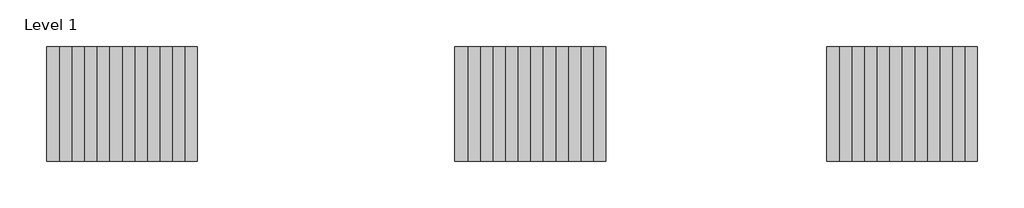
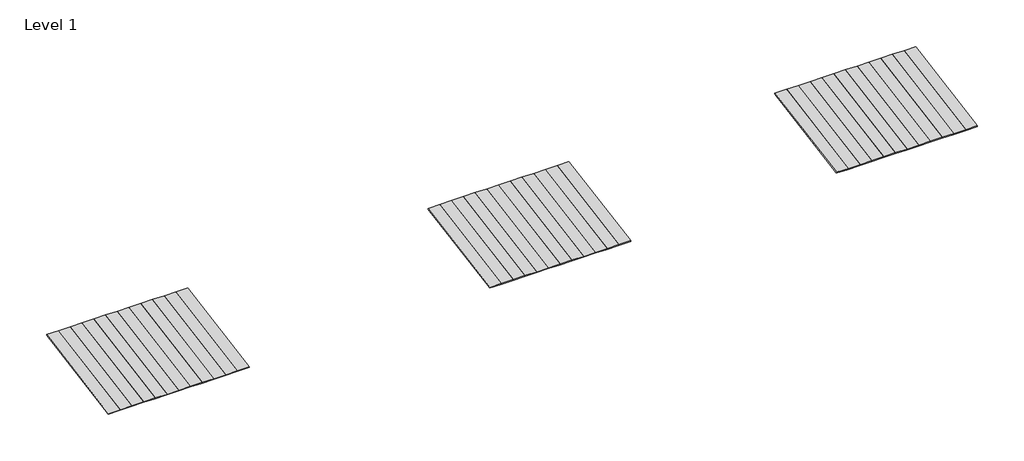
# One storey: 36 plates.
"""IFC4 building model written with IfcOpenShell, lengths in millimetres."""

from ifc_helpers import new_model, si_unit, origin, place, context, project, spatial, transform, mapped, element, save
from components import system_panel_77eb090d, system_panel_bf3a755d, system_panel_ab85e6cc

model = new_model("IFC4")

# Units and contexts
model_context = context("Model", 3, world=origin())
ifc_project = project(units=[si_unit("LENGTHUNIT", "METRE", prefix="MILLI")], contexts=[model_context])

# Site, building, storey
site = spatial("IfcSite", under=ifc_project)
building = spatial("IfcBuilding", under=site)
storey = spatial("IfcBuildingStorey", under=building, Name="Level 1", Elevation=4000.0)

# Plates
placement = place(None, origin())
system_panel_shape = system_panel_77eb090d(model_context)
element("IfcPlate", 1, ObjectType="System Panel : MetecnoSpan 60mm Roof - Plain Surfmist - PIR", at=placement, inside=storey, context=model_context, shape_type="MappedRepresentation", body=[
    mapped(system_panel_shape, transform((-46151.9897892, -47522.0759618, 0.0), x_axis=(1.0, 0.0, 0.0), y_axis=(0.0, 0.17364817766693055, -0.9848077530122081), z_axis=(0.0, 0.9848077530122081, 0.17364817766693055))),
])
element("IfcPlate", 2, ObjectType="System Panel : MetecnoSpan 60mm Roof - Plain Surfmist - PIR", at=placement, inside=storey, context=model_context, shape_type="MappedRepresentation", body=[
    mapped(system_panel_shape, transform((-45151.9897892, -47522.0759618, 0.0), x_axis=(1.0, 0.0, 0.0), y_axis=(0.0, 0.17364817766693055, -0.9848077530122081), z_axis=(0.0, 0.9848077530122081, 0.17364817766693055))),
])
element("IfcPlate", 3, ObjectType="System Panel : MetecnoSpan 60mm Roof - Plain Surfmist - PIR", at=placement, inside=storey, context=model_context, shape_type="MappedRepresentation", body=[
    mapped(system_panel_shape, transform((-44151.9897892, -47522.0759618, 0.0), x_axis=(1.0, 0.0, 0.0), y_axis=(0.0, 0.17364817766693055, -0.9848077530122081), z_axis=(0.0, 0.9848077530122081, 0.17364817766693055))),
])
element("IfcPlate", 4, ObjectType="System Panel : MetecnoSpan 60mm Roof - Plain Surfmist - PIR", at=placement, inside=storey, context=model_context, shape_type="MappedRepresentation", body=[
    mapped(system_panel_shape, transform((-43151.9897892, -47522.0759618, 0.0), x_axis=(1.0, 0.0, 0.0), y_axis=(0.0, 0.17364817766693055, -0.9848077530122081), z_axis=(0.0, 0.9848077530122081, 0.17364817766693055))),
])
element("IfcPlate", 5, ObjectType="System Panel : MetecnoSpan 60mm Roof - Plain Surfmist - PIR", at=placement, inside=storey, context=model_context, shape_type="MappedRepresentation", body=[
    mapped(system_panel_shape, transform((-42151.9897892, -47522.0759618, 0.0), x_axis=(1.0, 0.0, 0.0), y_axis=(0.0, 0.17364817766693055, -0.9848077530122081), z_axis=(0.0, 0.9848077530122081, 0.17364817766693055))),
])
element("IfcPlate", 6, ObjectType="System Panel : MetecnoSpan 60mm Roof - Plain Surfmist - PIR", at=placement, inside=storey, context=model_context, shape_type="MappedRepresentation", body=[
    mapped(system_panel_shape, transform((-41151.9897892, -47522.0759618, 0.0), x_axis=(1.0, 0.0, 0.0), y_axis=(0.0, 0.17364817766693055, -0.9848077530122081), z_axis=(0.0, 0.9848077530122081, 0.17364817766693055))),
])
element("IfcPlate", 7, ObjectType="System Panel : MetecnoSpan 60mm Roof - Plain Surfmist - PIR", at=placement, inside=storey, context=model_context, shape_type="MappedRepresentation", body=[
    mapped(system_panel_shape, transform((-40151.9897892, -47522.0759618, 0.0), x_axis=(1.0, 0.0, 0.0), y_axis=(0.0, 0.17364817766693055, -0.9848077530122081), z_axis=(0.0, 0.9848077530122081, 0.17364817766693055))),
])
element("IfcPlate", 8, ObjectType="System Panel : MetecnoSpan 60mm Roof - Plain Surfmist - PIR", at=placement, inside=storey, context=model_context, shape_type="MappedRepresentation", body=[
    mapped(system_panel_shape, transform((-39151.9897892, -47522.0759618, 0.0), x_axis=(1.0, 0.0, 0.0), y_axis=(0.0, 0.17364817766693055, -0.9848077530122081), z_axis=(0.0, 0.9848077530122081, 0.17364817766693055))),
])
element("IfcPlate", 9, ObjectType="System Panel : MetecnoSpan 60mm Roof - Plain Surfmist - PIR", at=placement, inside=storey, context=model_context, shape_type="MappedRepresentation", body=[
    mapped(system_panel_shape, transform((-38151.9897892, -47522.0759618, 0.0), x_axis=(1.0, 0.0, 0.0), y_axis=(0.0, 0.17364817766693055, -0.9848077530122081), z_axis=(0.0, 0.9848077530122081, 0.17364817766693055))),
])
element("IfcPlate", 10, ObjectType="System Panel : MetecnoSpan 60mm Roof - Plain Surfmist - PIR", at=placement, inside=storey, context=model_context, shape_type="MappedRepresentation", body=[
    mapped(system_panel_shape, transform((-37151.9897892, -47522.0759618, 0.0), x_axis=(1.0, 0.0, 0.0), y_axis=(0.0, 0.17364817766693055, -0.9848077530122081), z_axis=(0.0, 0.9848077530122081, 0.17364817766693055))),
])
element("IfcPlate", 11, ObjectType="System Panel : MetecnoSpan 60mm Roof - Plain Surfmist - PIR", at=placement, inside=storey, context=model_context, shape_type="MappedRepresentation", body=[
    mapped(system_panel_shape, transform((-36151.9897892, -47522.0759618, 0.0), x_axis=(1.0, 0.0, 0.0), y_axis=(0.0, 0.17364817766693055, -0.9848077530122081), z_axis=(0.0, 0.9848077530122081, 0.17364817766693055))),
])
element("IfcPlate", 12, ObjectType="System Panel : MetecnoSpan 60mm Roof - Plain Surfmist - PIR", at=placement, inside=storey, context=model_context, shape_type="MappedRepresentation", body=[
    mapped(system_panel_shape, transform((-35151.9897892, -47522.0759618, 0.0), x_axis=(1.0, 0.0, 0.0), y_axis=(0.0, 0.17364817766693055, -0.9848077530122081), z_axis=(0.0, 0.9848077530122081, 0.17364817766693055))),
])
system_panel_2_shape = system_panel_bf3a755d(model_context)
element("IfcPlate", 13, ObjectType="System Panel : MetecnoSpan 80mm Roof - Plain Surfmist - PIR", at=placement, inside=storey, context=model_context, shape_type="MappedRepresentation", body=[
    mapped(system_panel_2_shape, transform((-13677.3595261, -47532.4948525, 0.0), x_axis=(1.0, 0.0, 0.0), y_axis=(0.0, 0.17364817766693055, -0.9848077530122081), z_axis=(0.0, 0.9848077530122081, 0.17364817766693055))),
])
element("IfcPlate", 14, ObjectType="System Panel : MetecnoSpan 80mm Roof - Plain Surfmist - PIR", at=placement, inside=storey, context=model_context, shape_type="MappedRepresentation", body=[
    mapped(system_panel_2_shape, transform((-12677.3595261, -47532.4948525, 0.0), x_axis=(1.0, 0.0, 0.0), y_axis=(0.0, 0.17364817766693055, -0.9848077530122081), z_axis=(0.0, 0.9848077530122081, 0.17364817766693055))),
])
element("IfcPlate", 15, ObjectType="System Panel : MetecnoSpan 80mm Roof - Plain Surfmist - PIR", at=placement, inside=storey, context=model_context, shape_type="MappedRepresentation", body=[
    mapped(system_panel_2_shape, transform((-11677.3595261, -47532.4948525, 0.0), x_axis=(1.0, 0.0, 0.0), y_axis=(0.0, 0.17364817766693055, -0.9848077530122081), z_axis=(0.0, 0.9848077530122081, 0.17364817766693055))),
])
element("IfcPlate", 16, ObjectType="System Panel : MetecnoSpan 80mm Roof - Plain Surfmist - PIR", at=placement, inside=storey, context=model_context, shape_type="MappedRepresentation", body=[
    mapped(system_panel_2_shape, transform((-10677.3595261, -47532.4948525, 0.0), x_axis=(1.0, 0.0, 0.0), y_axis=(0.0, 0.17364817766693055, -0.9848077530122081), z_axis=(0.0, 0.9848077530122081, 0.17364817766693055))),
])
element("IfcPlate", 17, ObjectType="System Panel : MetecnoSpan 80mm Roof - Plain Surfmist - PIR", at=placement, inside=storey, context=model_context, shape_type="MappedRepresentation", body=[
    mapped(system_panel_2_shape, transform((-9677.3595261, -47532.4948525, 0.0), x_axis=(1.0, 0.0, 0.0), y_axis=(0.0, 0.17364817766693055, -0.9848077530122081), z_axis=(0.0, 0.9848077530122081, 0.17364817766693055))),
])
element("IfcPlate", 18, ObjectType="System Panel : MetecnoSpan 80mm Roof - Plain Surfmist - PIR", at=placement, inside=storey, context=model_context, shape_type="MappedRepresentation", body=[
    mapped(system_panel_2_shape, transform((-8677.3595261, -47532.4948525, 0.0), x_axis=(1.0, 0.0, 0.0), y_axis=(0.0, 0.17364817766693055, -0.9848077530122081), z_axis=(0.0, 0.9848077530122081, 0.17364817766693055))),
])
element("IfcPlate", 19, ObjectType="System Panel : MetecnoSpan 80mm Roof - Plain Surfmist - PIR", at=placement, inside=storey, context=model_context, shape_type="MappedRepresentation", body=[
    mapped(system_panel_2_shape, transform((-7677.3595261, -47532.4948525, 0.0), x_axis=(1.0, 0.0, 0.0), y_axis=(0.0, 0.17364817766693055, -0.9848077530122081), z_axis=(0.0, 0.9848077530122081, 0.17364817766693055))),
])
element("IfcPlate", 20, ObjectType="System Panel : MetecnoSpan 80mm Roof - Plain Surfmist - PIR", at=placement, inside=storey, context=model_context, shape_type="MappedRepresentation", body=[
    mapped(system_panel_2_shape, transform((-6677.3595261, -47532.4948525, 0.0), x_axis=(1.0, 0.0, 0.0), y_axis=(0.0, 0.17364817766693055, -0.9848077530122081), z_axis=(0.0, 0.9848077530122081, 0.17364817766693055))),
])
element("IfcPlate", 21, ObjectType="System Panel : MetecnoSpan 80mm Roof - Plain Surfmist - PIR", at=placement, inside=storey, context=model_context, shape_type="MappedRepresentation", body=[
    mapped(system_panel_2_shape, transform((-5677.3595261, -47532.4948525, 0.0), x_axis=(1.0, 0.0, 0.0), y_axis=(0.0, 0.17364817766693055, -0.9848077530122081), z_axis=(0.0, 0.9848077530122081, 0.17364817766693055))),
])
element("IfcPlate", 22, ObjectType="System Panel : MetecnoSpan 80mm Roof - Plain Surfmist - PIR", at=placement, inside=storey, context=model_context, shape_type="MappedRepresentation", body=[
    mapped(system_panel_2_shape, transform((-4677.3595261, -47532.4948525, 0.0), x_axis=(1.0, 0.0, 0.0), y_axis=(0.0, 0.17364817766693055, -0.9848077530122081), z_axis=(0.0, 0.9848077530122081, 0.17364817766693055))),
])
element("IfcPlate", 23, ObjectType="System Panel : MetecnoSpan 80mm Roof - Plain Surfmist - PIR", at=placement, inside=storey, context=model_context, shape_type="MappedRepresentation", body=[
    mapped(system_panel_2_shape, transform((-3677.3595261, -47532.4948525, 0.0), x_axis=(1.0, 0.0, 0.0), y_axis=(0.0, 0.17364817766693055, -0.9848077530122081), z_axis=(0.0, 0.9848077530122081, 0.17364817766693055))),
])
element("IfcPlate", 24, ObjectType="System Panel : MetecnoSpan 80mm Roof - Plain Surfmist - PIR", at=placement, inside=storey, context=model_context, shape_type="MappedRepresentation", body=[
    mapped(system_panel_2_shape, transform((-2677.3595261, -47532.4948525, 0.0), x_axis=(1.0, 0.0, 0.0), y_axis=(0.0, 0.17364817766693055, -0.9848077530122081), z_axis=(0.0, 0.9848077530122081, 0.17364817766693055))),
])
system_panel_3_shape = system_panel_ab85e6cc(model_context)
element("IfcPlate", 25, ObjectType="System Panel : MetecnoSpan 100mm Roof - Plain Surfmist - PIR", at=placement, inside=storey, context=model_context, shape_type="MappedRepresentation", body=[
    mapped(system_panel_3_shape, transform((15871.7838579, -47515.1300347, 0.0), x_axis=(1.0, 0.0, 0.0), y_axis=(0.0, 0.17364817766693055, -0.9848077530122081), z_axis=(0.0, 0.9848077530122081, 0.17364817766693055))),
])
element("IfcPlate", 26, ObjectType="System Panel : MetecnoSpan 100mm Roof - Plain Surfmist - PIR", at=placement, inside=storey, context=model_context, shape_type="MappedRepresentation", body=[
    mapped(system_panel_3_shape, transform((16871.7838579, -47515.1300347, 0.0), x_axis=(1.0, 0.0, 0.0), y_axis=(0.0, 0.17364817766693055, -0.9848077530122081), z_axis=(0.0, 0.9848077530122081, 0.17364817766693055))),
])
element("IfcPlate", 27, ObjectType="System Panel : MetecnoSpan 100mm Roof - Plain Surfmist - PIR", at=placement, inside=storey, context=model_context, shape_type="MappedRepresentation", body=[
    mapped(system_panel_3_shape, transform((17871.7838579, -47515.1300347, 0.0), x_axis=(1.0, 0.0, 0.0), y_axis=(0.0, 0.17364817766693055, -0.9848077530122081), z_axis=(0.0, 0.9848077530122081, 0.17364817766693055))),
])
element("IfcPlate", 28, ObjectType="System Panel : MetecnoSpan 100mm Roof - Plain Surfmist - PIR", at=placement, inside=storey, context=model_context, shape_type="MappedRepresentation", body=[
    mapped(system_panel_3_shape, transform((18871.7838579, -47515.1300347, 0.0), x_axis=(1.0, 0.0, 0.0), y_axis=(0.0, 0.17364817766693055, -0.9848077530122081), z_axis=(0.0, 0.9848077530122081, 0.17364817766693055))),
])
element("IfcPlate", 29, ObjectType="System Panel : MetecnoSpan 100mm Roof - Plain Surfmist - PIR", at=placement, inside=storey, context=model_context, shape_type="MappedRepresentation", body=[
    mapped(system_panel_3_shape, transform((19871.7838579, -47515.1300347, 0.0), x_axis=(1.0, 0.0, 0.0), y_axis=(0.0, 0.17364817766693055, -0.9848077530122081), z_axis=(0.0, 0.9848077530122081, 0.17364817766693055))),
])
element("IfcPlate", 30, ObjectType="System Panel : MetecnoSpan 100mm Roof - Plain Surfmist - PIR", at=placement, inside=storey, context=model_context, shape_type="MappedRepresentation", body=[
    mapped(system_panel_3_shape, transform((20871.7838579, -47515.1300347, 0.0), x_axis=(1.0, 0.0, 0.0), y_axis=(0.0, 0.17364817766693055, -0.9848077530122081), z_axis=(0.0, 0.9848077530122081, 0.17364817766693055))),
])
element("IfcPlate", 31, ObjectType="System Panel : MetecnoSpan 100mm Roof - Plain Surfmist - PIR", at=placement, inside=storey, context=model_context, shape_type="MappedRepresentation", body=[
    mapped(system_panel_3_shape, transform((21871.7838579, -47515.1300347, 0.0), x_axis=(1.0, 0.0, 0.0), y_axis=(0.0, 0.17364817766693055, -0.9848077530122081), z_axis=(0.0, 0.9848077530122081, 0.17364817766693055))),
])
element("IfcPlate", 32, ObjectType="System Panel : MetecnoSpan 100mm Roof - Plain Surfmist - PIR", at=placement, inside=storey, context=model_context, shape_type="MappedRepresentation", body=[
    mapped(system_panel_3_shape, transform((22871.7838579, -47515.1300347, 0.0), x_axis=(1.0, 0.0, 0.0), y_axis=(0.0, 0.17364817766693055, -0.9848077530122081), z_axis=(0.0, 0.9848077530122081, 0.17364817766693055))),
])
element("IfcPlate", 33, ObjectType="System Panel : MetecnoSpan 100mm Roof - Plain Surfmist - PIR", at=placement, inside=storey, context=model_context, shape_type="MappedRepresentation", body=[
    mapped(system_panel_3_shape, transform((23871.7838579, -47515.1300347, 0.0), x_axis=(1.0, 0.0, 0.0), y_axis=(0.0, 0.17364817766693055, -0.9848077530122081), z_axis=(0.0, 0.9848077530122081, 0.17364817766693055))),
])
element("IfcPlate", 34, ObjectType="System Panel : MetecnoSpan 100mm Roof - Plain Surfmist - PIR", at=placement, inside=storey, context=model_context, shape_type="MappedRepresentation", body=[
    mapped(system_panel_3_shape, transform((24871.7838579, -47515.1300347, 0.0), x_axis=(1.0, 0.0, 0.0), y_axis=(0.0, 0.17364817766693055, -0.9848077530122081), z_axis=(0.0, 0.9848077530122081, 0.17364817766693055))),
])
element("IfcPlate", 35, ObjectType="System Panel : MetecnoSpan 100mm Roof - Plain Surfmist - PIR", at=placement, inside=storey, context=model_context, shape_type="MappedRepresentation", body=[
    mapped(system_panel_3_shape, transform((25871.7838579, -47515.1300347, 0.0), x_axis=(1.0, 0.0, 0.0), y_axis=(0.0, 0.17364817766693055, -0.9848077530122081), z_axis=(0.0, 0.9848077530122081, 0.17364817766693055))),
])
element("IfcPlate", 36, ObjectType="System Panel : MetecnoSpan 100mm Roof - Plain Surfmist - PIR", at=placement, inside=storey, context=model_context, shape_type="MappedRepresentation", body=[
    mapped(system_panel_3_shape, transform((26871.7838579, -47515.1300347, 0.0), x_axis=(1.0, 0.0, 0.0), y_axis=(0.0, 0.17364817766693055, -0.9848077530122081), z_axis=(0.0, 0.9848077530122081, 0.17364817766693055))),
])

save(model, "model.ifc")
